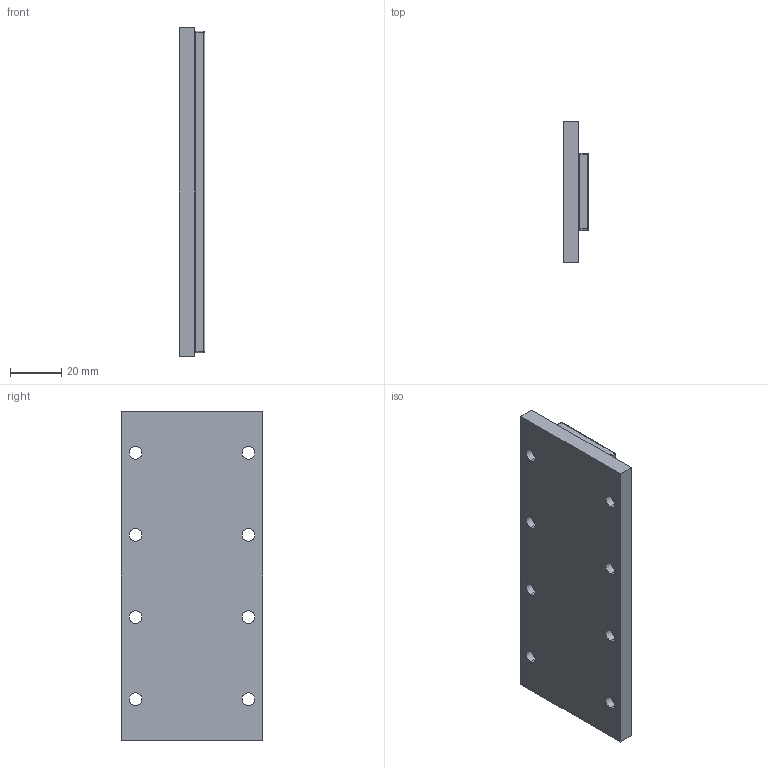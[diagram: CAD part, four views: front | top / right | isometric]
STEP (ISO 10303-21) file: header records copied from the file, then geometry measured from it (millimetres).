
FILE_DESCRIPTION (( 'STEP AP214' ), '1' );
FILE_NAME ('PIXM030-TL128-NC.STEP', '2020-07-30T01:50:46', ( '' ), ( '' ), 'SwSTEP 2.0', 'SolidWorks 2016', '' );
FILE_SCHEMA (( 'AUTOMOTIVE_DESIGN' ));
Length unit declared in the file: inch
Products named in the file (3): PIXM030-TL128-NC; 001SM030LXXX01_TL128; 001SM030000001-CUSTOMER_TL128
Assembly tree (2 placements, depth 2):
  PIXM030-TL128-NC
    001SM030LXXX01_TL128
    001SM030000001-CUSTOMER_TL128
Bounding box: 10 x 55 x 128 mm (x, y, z)
Volume: 55432.2 mm3; surface area: 25620.6 mm2
Topology: 2 solids, 2 shells, 83 faces, 194 edges, 116 vertices
Faces by surface type: cylinder 44, plane 31, bspline 8
Entity records: 3639 total; most frequent: CARTESIAN_POINT 510, DIRECTION 434, ORIENTED_EDGE 372, EDGE_CURVE 186, AXIS2_PLACEMENT_3D 168, VERTEX_POINT 116, EDGE_LOOP 108, LINE 98
